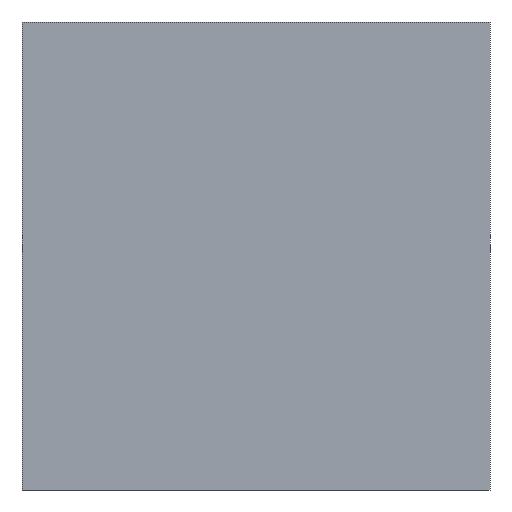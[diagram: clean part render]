
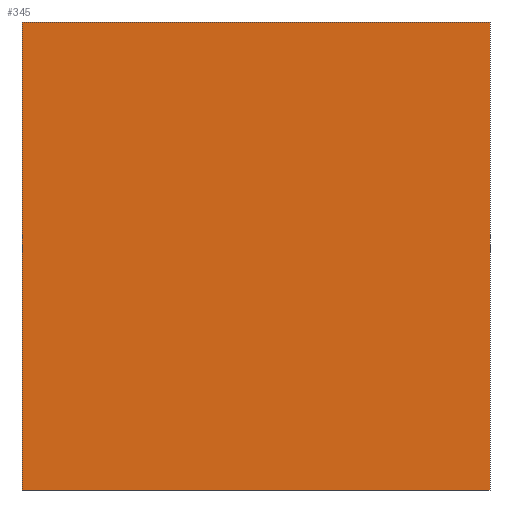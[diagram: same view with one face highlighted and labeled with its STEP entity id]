
A CAD part, left-side view. The second image highlights one B-rep face of the part: STEP entity #345.
In plain terms, the highlighted planar face has unit normal (-1, 0, 0).
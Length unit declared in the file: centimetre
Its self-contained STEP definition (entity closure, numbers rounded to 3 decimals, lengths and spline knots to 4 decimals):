
#10 = VERTEX_POINT ( 'NONE', #225 ) ;
#12 = LINE ( 'NONE', #155, #431 ) ;
#31 = VERTEX_POINT ( 'NONE', #418 ) ;
#48 = EDGE_CURVE ( 'NONE', #144, #10, #12, .T. ) ;
#74 = LINE ( 'NONE', #404, #412 ) ;
#78 = VECTOR ( 'NONE', #427, 100. ) ;
#103 = VERTEX_POINT ( 'NONE', #189 ) ;
#121 = CARTESIAN_POINT ( 'NONE',  ( 0., 1000., 1000. ) ) ;
#122 = DIRECTION ( 'NONE',  ( 0., 0., -1. ) ) ;
#140 = ORIENTED_EDGE ( 'NONE', *, *, #333, .F. ) ;
#144 = VERTEX_POINT ( 'NONE', #224 ) ;
#148 = EDGE_LOOP ( 'NONE', ( #450, #445, #140, #352 ) ) ;
#155 = CARTESIAN_POINT ( 'NONE',  ( 0., 0., 1000. ) ) ;
#160 = LINE ( 'NONE', #236, #78 ) ;
#168 = EDGE_CURVE ( 'NONE', #31, #103, #297, .T. ) ;
#171 = DIRECTION ( 'NONE',  ( 0., -1., 0. ) ) ;
#178 = CARTESIAN_POINT ( 'NONE',  ( 0., 1000., 1000. ) ) ;
#183 = FACE_OUTER_BOUND ( 'NONE', #148, .T. ) ;
#189 = CARTESIAN_POINT ( 'NONE',  ( 0., 1000., 0. ) ) ;
#222 = DIRECTION ( 'NONE',  ( 0., 0., -1. ) ) ;
#224 = CARTESIAN_POINT ( 'NONE',  ( 0., 0., 1000. ) ) ;
#225 = CARTESIAN_POINT ( 'NONE',  ( 0., 0., 0. ) ) ;
#236 = CARTESIAN_POINT ( 'NONE',  ( 0., 1000., 0. ) ) ;
#245 = DIRECTION ( 'NONE',  ( 1., 0., 0. ) ) ;
#262 = EDGE_CURVE ( 'NONE', #103, #10, #160, .T. ) ;
#265 = VECTOR ( 'NONE', #222, 100. ) ;
#284 = AXIS2_PLACEMENT_3D ( 'NONE', #178, #245, #398 ) ;
#297 = LINE ( 'NONE', #121, #265 ) ;
#333 = EDGE_CURVE ( 'NONE', #31, #144, #74, .T. ) ;
#345 = ADVANCED_FACE ( 'NONE', ( #183 ), #358, .F. ) ;
#352 = ORIENTED_EDGE ( 'NONE', *, *, #168, .T. ) ;
#358 = PLANE ( 'NONE',  #284 ) ;
#398 = DIRECTION ( 'NONE',  ( 0., 0., -1. ) ) ;
#404 = CARTESIAN_POINT ( 'NONE',  ( 0., 1000., 1000. ) ) ;
#412 = VECTOR ( 'NONE', #171, 100. ) ;
#418 = CARTESIAN_POINT ( 'NONE',  ( 0., 1000., 1000. ) ) ;
#427 = DIRECTION ( 'NONE',  ( 0., -1., 0. ) ) ;
#431 = VECTOR ( 'NONE', #122, 100. ) ;
#445 = ORIENTED_EDGE ( 'NONE', *, *, #48, .F. ) ;
#450 = ORIENTED_EDGE ( 'NONE', *, *, #262, .T. ) ;
